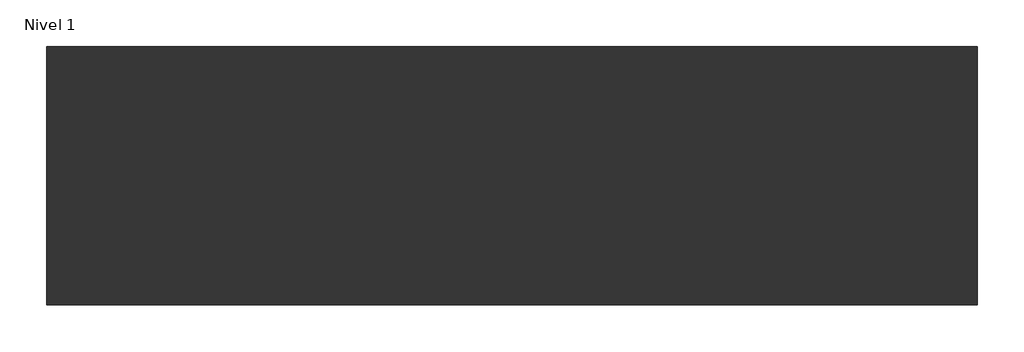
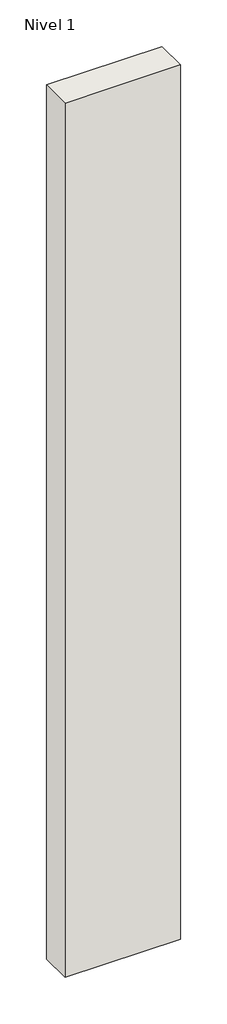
# One storey: 1 wall.
"""IFC4 building model written with IfcOpenShell, lengths in millimetres."""

from ifc_helpers import new_model, si_unit, origin, origin_with_axes, place, context, project, spatial, polyline, outline, extrude, element, save

model = new_model("IFC4")

# Units and contexts
model_context = context("Model", 3, world=origin())
ifc_project = project(units=[si_unit("LENGTHUNIT", "METRE", prefix="MILLI")], contexts=[model_context])

# Site, building, storey
site = spatial("IfcSite", under=ifc_project)
building = spatial("IfcBuilding", under=site)
storey = spatial("IfcBuildingStorey", under=building, Name="Nivel 1", Elevation=0.0)

# Wall
placement = place(None, origin())
element("IfcWall", 1, ObjectType="Revest + plancha poliuretano + LC 1/2 pie + yeso", at=placement, inside=storey, context=model_context, shape_type="SweptSolid", body=[
    extrude(outline(polyline([(-3167.1347582, 3517.9505819), (-4167.1347582, 3517.9505819), (-4167.1347582, 3795.9505819), (-3167.1347582, 3795.9505819), (-3167.1347582, 3517.9505819)])), origin_with_axes(), (0.0, 0.0, 1.0), 8000.0),
])

save(model, "model.ifc")
